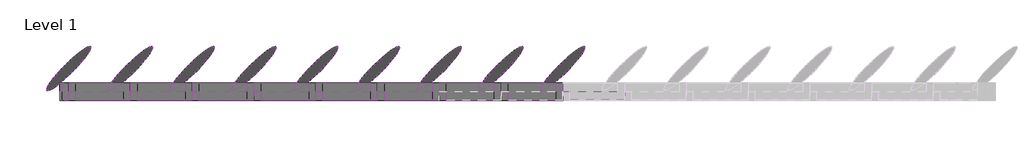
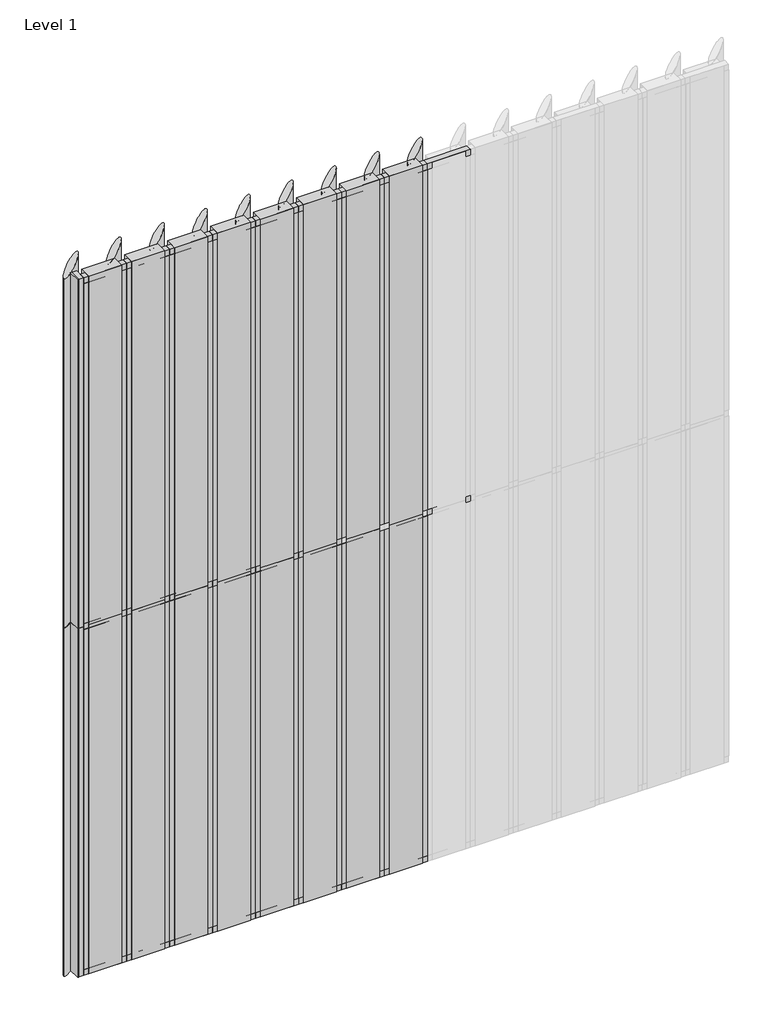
# One storey, part 1 of 2: 42 members, 36 plates.
"""IFC4 building model written with IfcOpenShell, lengths in millimetres."""

from ifc_helpers import new_model, si_unit, origin, place, context, project, spatial, transform, mapped, element, save
from components import rectangular_mullion_80596749, rectangular_mullion_795f5a7c, rectangular_mullion_98250b89, rectangular_mullion_94c598e1, empty_system_panel_empty_b0bff820, empty_system_panel_empty_78d8e544, empty_system_panel_empty_5c88f992, empty_system_panel_empty_86f8aeda

model = new_model("IFC4")

# Units and contexts
model_context = context("Model", 3, world=origin())
ifc_project = project(units=[si_unit("LENGTHUNIT", "METRE", prefix="MILLI")], contexts=[model_context])

# Site, building, storey
site = spatial("IfcSite", under=ifc_project)
building = spatial("IfcBuilding", under=site)
storey = spatial("IfcBuildingStorey", under=building, Name="Level 1", Elevation=0.0)

# Members
placement = place(None, origin())
rectangular_mullion_shape = rectangular_mullion_80596749(model_context)
element("IfcMember", 1, ObjectType="Rectangular Mullion : RSen_21_CWM_blade - 350 ellips - 45°_gen_duco projects", at=placement, inside=storey, context=model_context, shape_type="MappedRepresentation", body=[
    mapped(rectangular_mullion_shape, transform((2850.0, 3000.0, 0.0), x_axis=(-1.0, 0.0, 0.0), y_axis=(0.0, 1.0, 0.0), z_axis=(0.0, 0.0, -1.0))),
])
element("IfcMember", 2, ObjectType="Rectangular Mullion : RSen_21_CWM_blade - 350 ellips - 45°_gen_duco projects", at=placement, inside=storey, context=model_context, shape_type="MappedRepresentation", body=[
    mapped(rectangular_mullion_shape, transform((2500.0, 3000.0, 0.0), x_axis=(-1.0, 0.0, 0.0), y_axis=(0.0, 1.0, 0.0), z_axis=(0.0, 0.0, -1.0))),
])
element("IfcMember", 3, ObjectType="Rectangular Mullion : RSen_21_CWM_blade - 350 ellips - 45°_gen_duco projects", at=placement, inside=storey, context=model_context, shape_type="MappedRepresentation", body=[
    mapped(rectangular_mullion_shape, transform((2150.0, 3000.0, 0.0), x_axis=(-1.0, 0.0, 0.0), y_axis=(0.0, 1.0, 0.0), z_axis=(0.0, 0.0, -1.0))),
])
element("IfcMember", 4, ObjectType="Rectangular Mullion : RSen_21_CWM_blade - 350 ellips - 45°_gen_duco projects", at=placement, inside=storey, context=model_context, shape_type="MappedRepresentation", body=[
    mapped(rectangular_mullion_shape, transform((1800.0, 3000.0, 0.0), x_axis=(-1.0, 0.0, 0.0), y_axis=(0.0, 1.0, 0.0), z_axis=(0.0, 0.0, -1.0))),
])
element("IfcMember", 5, ObjectType="Rectangular Mullion : RSen_21_CWM_blade - 350 ellips - 45°_gen_duco projects", at=placement, inside=storey, context=model_context, shape_type="MappedRepresentation", body=[
    mapped(rectangular_mullion_shape, transform((1450.0, 3000.0, 0.0), x_axis=(-1.0, 0.0, 0.0), y_axis=(0.0, 1.0, 0.0), z_axis=(0.0, 0.0, -1.0))),
])
element("IfcMember", 6, ObjectType="Rectangular Mullion : RSen_21_CWM_blade - 350 ellips - 45°_gen_duco projects", at=placement, inside=storey, context=model_context, shape_type="MappedRepresentation", body=[
    mapped(rectangular_mullion_shape, transform((1100.0, 3000.0, 0.0), x_axis=(-1.0, 0.0, 0.0), y_axis=(0.0, 1.0, 0.0), z_axis=(0.0, 0.0, -1.0))),
])
element("IfcMember", 7, ObjectType="Rectangular Mullion : RSen_21_CWM_blade - 350 ellips - 45°_gen_duco projects", at=placement, inside=storey, context=model_context, shape_type="MappedRepresentation", body=[
    mapped(rectangular_mullion_shape, transform((750.0, 3000.0, 0.0), x_axis=(-1.0, 0.0, 0.0), y_axis=(0.0, 1.0, 0.0), z_axis=(0.0, 0.0, -1.0))),
])
element("IfcMember", 8, ObjectType="Rectangular Mullion : RSen_21_CWM_blade - 350 ellips - 45°_gen_duco projects", at=placement, inside=storey, context=model_context, shape_type="MappedRepresentation", body=[
    mapped(rectangular_mullion_shape, transform((400.0, 3000.0, 0.0), x_axis=(-1.0, 0.0, 0.0), y_axis=(0.0, 1.0, 0.0), z_axis=(0.0, 0.0, -1.0))),
])
element("IfcMember", 9, ObjectType="Rectangular Mullion : RSen_21_CWM_blade - 350 ellips - 45°_gen_duco projects", at=placement, inside=storey, context=model_context, shape_type="MappedRepresentation", body=[
    mapped(rectangular_mullion_shape, transform((50.0, 3000.0, 0.0), x_axis=(-1.0, 0.0, 0.0), y_axis=(0.0, 1.0, 0.0), z_axis=(0.0, 0.0, -1.0))),
])
element("IfcMember", 10, ObjectType="Rectangular Mullion : RSen_21_CWM_blade - 350 ellips - 45°_gen_duco projects", at=placement, inside=storey, context=model_context, shape_type="MappedRepresentation", body=[
    mapped(rectangular_mullion_shape, transform((2850.0, 3000.0, 3000.0), x_axis=(-1.0, 0.0, 0.0), y_axis=(0.0, 1.0, 0.0), z_axis=(0.0, 0.0, -1.0))),
])
element("IfcMember", 11, ObjectType="Rectangular Mullion : RSen_21_CWM_blade - 350 ellips - 45°_gen_duco projects", at=placement, inside=storey, context=model_context, shape_type="MappedRepresentation", body=[
    mapped(rectangular_mullion_shape, transform((2500.0, 3000.0, 3000.0), x_axis=(-1.0, 0.0, 0.0), y_axis=(0.0, 1.0, 0.0), z_axis=(0.0, 0.0, -1.0))),
])
element("IfcMember", 12, ObjectType="Rectangular Mullion : RSen_21_CWM_blade - 350 ellips - 45°_gen_duco projects", at=placement, inside=storey, context=model_context, shape_type="MappedRepresentation", body=[
    mapped(rectangular_mullion_shape, transform((2150.0, 3000.0, 3000.0), x_axis=(-1.0, 0.0, 0.0), y_axis=(0.0, 1.0, 0.0), z_axis=(0.0, 0.0, -1.0))),
])
element("IfcMember", 13, ObjectType="Rectangular Mullion : RSen_21_CWM_blade - 350 ellips - 45°_gen_duco projects", at=placement, inside=storey, context=model_context, shape_type="MappedRepresentation", body=[
    mapped(rectangular_mullion_shape, transform((1800.0, 3000.0, 3000.0), x_axis=(-1.0, 0.0, 0.0), y_axis=(0.0, 1.0, 0.0), z_axis=(0.0, 0.0, -1.0))),
])
element("IfcMember", 14, ObjectType="Rectangular Mullion : RSen_21_CWM_blade - 350 ellips - 45°_gen_duco projects", at=placement, inside=storey, context=model_context, shape_type="MappedRepresentation", body=[
    mapped(rectangular_mullion_shape, transform((1450.0, 3000.0, 3000.0), x_axis=(-1.0, 0.0, 0.0), y_axis=(0.0, 1.0, 0.0), z_axis=(0.0, 0.0, -1.0))),
])
element("IfcMember", 15, ObjectType="Rectangular Mullion : RSen_21_CWM_blade - 350 ellips - 45°_gen_duco projects", at=placement, inside=storey, context=model_context, shape_type="MappedRepresentation", body=[
    mapped(rectangular_mullion_shape, transform((1100.0, 3000.0, 3000.0), x_axis=(-1.0, 0.0, 0.0), y_axis=(0.0, 1.0, 0.0), z_axis=(0.0, 0.0, -1.0))),
])
element("IfcMember", 16, ObjectType="Rectangular Mullion : RSen_21_CWM_blade - 350 ellips - 45°_gen_duco projects", at=placement, inside=storey, context=model_context, shape_type="MappedRepresentation", body=[
    mapped(rectangular_mullion_shape, transform((750.0, 3000.0, 3000.0), x_axis=(-1.0, 0.0, 0.0), y_axis=(0.0, 1.0, 0.0), z_axis=(0.0, 0.0, -1.0))),
])
element("IfcMember", 17, ObjectType="Rectangular Mullion : RSen_21_CWM_blade - 350 ellips - 45°_gen_duco projects", at=placement, inside=storey, context=model_context, shape_type="MappedRepresentation", body=[
    mapped(rectangular_mullion_shape, transform((400.0, 3000.0, 3000.0), x_axis=(-1.0, 0.0, 0.0), y_axis=(0.0, 1.0, 0.0), z_axis=(0.0, 0.0, -1.0))),
])
element("IfcMember", 18, ObjectType="Rectangular Mullion : RSen_21_CWM_blade - 350 ellips - 45°_gen_duco projects", at=placement, inside=storey, context=model_context, shape_type="MappedRepresentation", body=[
    mapped(rectangular_mullion_shape, transform((50.0, 3000.0, 3000.0), x_axis=(-1.0, 0.0, 0.0), y_axis=(0.0, 1.0, 0.0), z_axis=(0.0, 0.0, -1.0))),
])
rectangular_mullion_2_shape = rectangular_mullion_795f5a7c(model_context)
element("IfcMember", 19, ObjectType="Rectangular Mullion : RSen_21_CWM_support profile 50x50 - left_gen_duco projects", at=placement, inside=storey, context=model_context, shape_type="MappedRepresentation", body=[
    mapped(rectangular_mullion_2_shape, transform((2850.0, 3000.0, 6000.0), x_axis=(0.0, 0.0, 1.0), y_axis=(0.0, 1.0, 0.0), z_axis=(-1.0, 0.0, 0.0))),
])
element("IfcMember", 20, ObjectType="Rectangular Mullion : RSen_21_CWM_support profile 50x50 - left_gen_duco projects", at=placement, inside=storey, context=model_context, shape_type="MappedRepresentation", body=[
    mapped(rectangular_mullion_2_shape, transform((2500.0, 3000.0, 6000.0), x_axis=(0.0, 0.0, 1.0), y_axis=(0.0, 1.0, 0.0), z_axis=(-1.0, 0.0, 0.0))),
])
element("IfcMember", 21, ObjectType="Rectangular Mullion : RSen_21_CWM_support profile 50x50 - left_gen_duco projects", at=placement, inside=storey, context=model_context, shape_type="MappedRepresentation", body=[
    mapped(rectangular_mullion_2_shape, transform((2150.0, 3000.0, 6000.0), x_axis=(0.0, 0.0, 1.0), y_axis=(0.0, 1.0, 0.0), z_axis=(-1.0, 0.0, 0.0))),
])
element("IfcMember", 22, ObjectType="Rectangular Mullion : RSen_21_CWM_support profile 50x50 - left_gen_duco projects", at=placement, inside=storey, context=model_context, shape_type="MappedRepresentation", body=[
    mapped(rectangular_mullion_2_shape, transform((1800.0, 3000.0, 6000.0), x_axis=(0.0, 0.0, 1.0), y_axis=(0.0, 1.0, 0.0), z_axis=(-1.0, 0.0, 0.0))),
])
element("IfcMember", 23, ObjectType="Rectangular Mullion : RSen_21_CWM_support profile 50x50 - left_gen_duco projects", at=placement, inside=storey, context=model_context, shape_type="MappedRepresentation", body=[
    mapped(rectangular_mullion_2_shape, transform((1450.0, 3000.0, 6000.0), x_axis=(0.0, 0.0, 1.0), y_axis=(0.0, 1.0, 0.0), z_axis=(-1.0, 0.0, 0.0))),
])
element("IfcMember", 24, ObjectType="Rectangular Mullion : RSen_21_CWM_support profile 50x50 - left_gen_duco projects", at=placement, inside=storey, context=model_context, shape_type="MappedRepresentation", body=[
    mapped(rectangular_mullion_2_shape, transform((1100.0, 3000.0, 6000.0), x_axis=(0.0, 0.0, 1.0), y_axis=(0.0, 1.0, 0.0), z_axis=(-1.0, 0.0, 0.0))),
])
element("IfcMember", 25, ObjectType="Rectangular Mullion : RSen_21_CWM_support profile 50x50 - left_gen_duco projects", at=placement, inside=storey, context=model_context, shape_type="MappedRepresentation", body=[
    mapped(rectangular_mullion_2_shape, transform((750.0, 3000.0, 6000.0), x_axis=(0.0, 0.0, 1.0), y_axis=(0.0, 1.0, 0.0), z_axis=(-1.0, 0.0, 0.0))),
])
element("IfcMember", 26, ObjectType="Rectangular Mullion : RSen_21_CWM_support profile 50x50 - left_gen_duco projects", at=placement, inside=storey, context=model_context, shape_type="MappedRepresentation", body=[
    mapped(rectangular_mullion_2_shape, transform((400.0, 3000.0, 6000.0), x_axis=(0.0, 0.0, 1.0), y_axis=(0.0, 1.0, 0.0), z_axis=(-1.0, 0.0, 0.0))),
])
element("IfcMember", 27, ObjectType="Rectangular Mullion : RSen_21_CWM_support profile 50x50 - left_gen_duco projects", at=placement, inside=storey, context=model_context, shape_type="MappedRepresentation", body=[
    mapped(rectangular_mullion_2_shape, transform((50.0, 3000.0, 6000.0), x_axis=(0.0, 0.0, 1.0), y_axis=(0.0, 1.0, 0.0), z_axis=(-1.0, 0.0, 0.0))),
])
rectangular_mullion_3_shape = rectangular_mullion_98250b89(model_context)
element("IfcMember", 28, ObjectType="Rectangular Mullion : RSen_21_CWM_support profile 50x50 - right_gen_duco projects", at=placement, inside=storey, context=model_context, shape_type="MappedRepresentation", body=[
    mapped(rectangular_mullion_3_shape, transform((2850.0, 3000.0, 0.0), x_axis=(0.0, 0.0, -1.0), y_axis=(0.0, 1.0, 0.0), z_axis=(1.0, 0.0, 0.0))),
])
element("IfcMember", 29, ObjectType="Rectangular Mullion : RSen_21_CWM_support profile 50x50 - right_gen_duco projects", at=placement, inside=storey, context=model_context, shape_type="MappedRepresentation", body=[
    mapped(rectangular_mullion_3_shape, transform((2500.0, 3000.0, 0.0), x_axis=(0.0, 0.0, -1.0), y_axis=(0.0, 1.0, 0.0), z_axis=(1.0, 0.0, 0.0))),
])
element("IfcMember", 30, ObjectType="Rectangular Mullion : RSen_21_CWM_support profile 50x50 - right_gen_duco projects", at=placement, inside=storey, context=model_context, shape_type="MappedRepresentation", body=[
    mapped(rectangular_mullion_3_shape, transform((2150.0, 3000.0, 0.0), x_axis=(0.0, 0.0, -1.0), y_axis=(0.0, 1.0, 0.0), z_axis=(1.0, 0.0, 0.0))),
])
element("IfcMember", 31, ObjectType="Rectangular Mullion : RSen_21_CWM_support profile 50x50 - right_gen_duco projects", at=placement, inside=storey, context=model_context, shape_type="MappedRepresentation", body=[
    mapped(rectangular_mullion_3_shape, transform((1800.0, 3000.0, 0.0), x_axis=(0.0, 0.0, -1.0), y_axis=(0.0, 1.0, 0.0), z_axis=(1.0, 0.0, 0.0))),
])
element("IfcMember", 32, ObjectType="Rectangular Mullion : RSen_21_CWM_support profile 50x50 - right_gen_duco projects", at=placement, inside=storey, context=model_context, shape_type="MappedRepresentation", body=[
    mapped(rectangular_mullion_3_shape, transform((1450.0, 3000.0, 0.0), x_axis=(0.0, 0.0, -1.0), y_axis=(0.0, 1.0, 0.0), z_axis=(1.0, 0.0, 0.0))),
])
element("IfcMember", 33, ObjectType="Rectangular Mullion : RSen_21_CWM_support profile 50x50 - right_gen_duco projects", at=placement, inside=storey, context=model_context, shape_type="MappedRepresentation", body=[
    mapped(rectangular_mullion_3_shape, transform((1100.0, 3000.0, 0.0), x_axis=(0.0, 0.0, -1.0), y_axis=(0.0, 1.0, 0.0), z_axis=(1.0, 0.0, 0.0))),
])
element("IfcMember", 34, ObjectType="Rectangular Mullion : RSen_21_CWM_support profile 50x50 - right_gen_duco projects", at=placement, inside=storey, context=model_context, shape_type="MappedRepresentation", body=[
    mapped(rectangular_mullion_3_shape, transform((750.0, 3000.0, 0.0), x_axis=(0.0, 0.0, -1.0), y_axis=(0.0, 1.0, 0.0), z_axis=(1.0, 0.0, 0.0))),
])
element("IfcMember", 35, ObjectType="Rectangular Mullion : RSen_21_CWM_support profile 50x50 - right_gen_duco projects", at=placement, inside=storey, context=model_context, shape_type="MappedRepresentation", body=[
    mapped(rectangular_mullion_3_shape, transform((400.0, 3000.0, 0.0), x_axis=(0.0, 0.0, -1.0), y_axis=(0.0, 1.0, 0.0), z_axis=(1.0, 0.0, 0.0))),
])
rectangular_mullion_4_shape = rectangular_mullion_94c598e1(model_context)
element("IfcMember", 36, ObjectType="Rectangular Mullion : RSen_21_CWM_support profile 50x50_gen_duco projects", at=placement, inside=storey, context=model_context, shape_type="MappedRepresentation", body=[
    mapped(rectangular_mullion_4_shape, transform((2850.0, 3000.0, 3000.0), x_axis=(0.0, 0.0, 1.0), y_axis=(0.0, 1.0, 0.0), z_axis=(-1.0, 0.0, 0.0))),
])
element("IfcMember", 37, ObjectType="Rectangular Mullion : RSen_21_CWM_support profile 50x50_gen_duco projects", at=placement, inside=storey, context=model_context, shape_type="MappedRepresentation", body=[
    mapped(rectangular_mullion_4_shape, transform((1800.0, 3000.0, 3000.0), x_axis=(0.0, 0.0, 1.0), y_axis=(0.0, 1.0, 0.0), z_axis=(-1.0, 0.0, 0.0))),
])
element("IfcMember", 38, ObjectType="Rectangular Mullion : RSen_21_CWM_support profile 50x50_gen_duco projects", at=placement, inside=storey, context=model_context, shape_type="MappedRepresentation", body=[
    mapped(rectangular_mullion_4_shape, transform((1450.0, 3000.0, 3000.0), x_axis=(0.0, 0.0, 1.0), y_axis=(0.0, 1.0, 0.0), z_axis=(-1.0, 0.0, 0.0))),
])
element("IfcMember", 39, ObjectType="Rectangular Mullion : RSen_21_CWM_support profile 50x50_gen_duco projects", at=placement, inside=storey, context=model_context, shape_type="MappedRepresentation", body=[
    mapped(rectangular_mullion_4_shape, transform((1100.0, 3000.0, 3000.0), x_axis=(0.0, 0.0, 1.0), y_axis=(0.0, 1.0, 0.0), z_axis=(-1.0, 0.0, 0.0))),
])
element("IfcMember", 40, ObjectType="Rectangular Mullion : RSen_21_CWM_support profile 50x50_gen_duco projects", at=placement, inside=storey, context=model_context, shape_type="MappedRepresentation", body=[
    mapped(rectangular_mullion_4_shape, transform((750.0, 3000.0, 3000.0), x_axis=(0.0, 0.0, 1.0), y_axis=(0.0, 1.0, 0.0), z_axis=(-1.0, 0.0, 0.0))),
])
element("IfcMember", 41, ObjectType="Rectangular Mullion : RSen_21_CWM_support profile 50x50_gen_duco projects", at=placement, inside=storey, context=model_context, shape_type="MappedRepresentation", body=[
    mapped(rectangular_mullion_4_shape, transform((400.0, 3000.0, 3000.0), x_axis=(0.0, 0.0, 1.0), y_axis=(0.0, 1.0, 0.0), z_axis=(-1.0, 0.0, 0.0))),
])
element("IfcMember", 42, ObjectType="Rectangular Mullion : RSen_21_CWM_support profile 50x50_gen_duco projects", at=placement, inside=storey, context=model_context, shape_type="MappedRepresentation", body=[
    mapped(rectangular_mullion_4_shape, transform((50.0, 3000.0, 3000.0), x_axis=(0.0, 0.0, 1.0), y_axis=(0.0, 1.0, 0.0), z_axis=(-1.0, 0.0, 0.0))),
])

# Plates
empty_system_panel_empty_shape = empty_system_panel_empty_b0bff820(model_context)
element("IfcPlate", 43, ObjectType="Empty System Panel : Empty", at=placement, inside=storey, context=model_context, shape_type="MappedRepresentation", body=[
    mapped(empty_system_panel_empty_shape, transform((4.8474567, 3000.0, 0.0), x_axis=(-1.0, 0.0, 0.0), y_axis=(0.0, -1.0, 0.0), z_axis=(0.0, 0.0, 1.0))),
])
element("IfcPlate", 44, ObjectType="Empty System Panel : Empty", at=placement, inside=storey, context=model_context, shape_type="MappedRepresentation", body=[
    mapped(empty_system_panel_empty_shape, transform((4.8474567, 3000.0, 3000.0), x_axis=(-1.0, 0.0, 0.0), y_axis=(0.0, -1.0, 0.0), z_axis=(0.0, 0.0, 1.0))),
])
empty_system_panel_empty_2_shape = empty_system_panel_empty_78d8e544(model_context)
element("IfcPlate", 45, ObjectType="Empty System Panel : Empty", at=placement, inside=storey, context=model_context, shape_type="MappedRepresentation", body=[
    mapped(empty_system_panel_empty_2_shape, transform((2675.0, 3000.0, 0.0), x_axis=(-1.0, 0.0, 0.0), y_axis=(0.0, -1.0, 0.0), z_axis=(0.0, 0.0, 1.0))),
])
element("IfcPlate", 46, ObjectType="Empty System Panel : Empty", at=placement, inside=storey, context=model_context, shape_type="MappedRepresentation", body=[
    mapped(empty_system_panel_empty_2_shape, transform((2325.0, 3000.0, 0.0), x_axis=(-1.0, 0.0, 0.0), y_axis=(0.0, -1.0, 0.0), z_axis=(0.0, 0.0, 1.0))),
])
element("IfcPlate", 47, ObjectType="Empty System Panel : Empty", at=placement, inside=storey, context=model_context, shape_type="MappedRepresentation", body=[
    mapped(empty_system_panel_empty_2_shape, transform((1975.0, 3000.0, 0.0), x_axis=(-1.0, 0.0, 0.0), y_axis=(0.0, -1.0, 0.0), z_axis=(0.0, 0.0, 1.0))),
])
element("IfcPlate", 48, ObjectType="Empty System Panel : Empty", at=placement, inside=storey, context=model_context, shape_type="MappedRepresentation", body=[
    mapped(empty_system_panel_empty_2_shape, transform((1625.0, 3000.0, 0.0), x_axis=(-1.0, 0.0, 0.0), y_axis=(0.0, -1.0, 0.0), z_axis=(0.0, 0.0, 1.0))),
])
element("IfcPlate", 49, ObjectType="Empty System Panel : Empty", at=placement, inside=storey, context=model_context, shape_type="MappedRepresentation", body=[
    mapped(empty_system_panel_empty_2_shape, transform((1275.0, 3000.0, 0.0), x_axis=(-1.0, 0.0, 0.0), y_axis=(0.0, -1.0, 0.0), z_axis=(0.0, 0.0, 1.0))),
])
element("IfcPlate", 50, ObjectType="Empty System Panel : Empty", at=placement, inside=storey, context=model_context, shape_type="MappedRepresentation", body=[
    mapped(empty_system_panel_empty_2_shape, transform((925.0, 3000.0, 0.0), x_axis=(-1.0, 0.0, 0.0), y_axis=(0.0, -1.0, 0.0), z_axis=(0.0, 0.0, 1.0))),
])
element("IfcPlate", 51, ObjectType="Empty System Panel : Empty", at=placement, inside=storey, context=model_context, shape_type="MappedRepresentation", body=[
    mapped(empty_system_panel_empty_2_shape, transform((575.0, 3000.0, 0.0), x_axis=(-1.0, 0.0, 0.0), y_axis=(0.0, -1.0, 0.0), z_axis=(0.0, 0.0, 1.0))),
])
element("IfcPlate", 52, ObjectType="Empty System Panel : Empty", at=placement, inside=storey, context=model_context, shape_type="MappedRepresentation", body=[
    mapped(empty_system_panel_empty_2_shape, transform((225.0, 3000.0, 0.0), x_axis=(-1.0, 0.0, 0.0), y_axis=(0.0, -1.0, 0.0), z_axis=(0.0, 0.0, 1.0))),
])
element("IfcPlate", 53, ObjectType="Empty System Panel : Empty", at=placement, inside=storey, context=model_context, shape_type="MappedRepresentation", body=[
    mapped(empty_system_panel_empty_2_shape, transform((2675.0, 3000.0, 3000.0), x_axis=(-1.0, 0.0, 0.0), y_axis=(0.0, -1.0, 0.0), z_axis=(0.0, 0.0, 1.0))),
])
element("IfcPlate", 54, ObjectType="Empty System Panel : Empty", at=placement, inside=storey, context=model_context, shape_type="MappedRepresentation", body=[
    mapped(empty_system_panel_empty_2_shape, transform((2325.0, 3000.0, 3000.0), x_axis=(-1.0, 0.0, 0.0), y_axis=(0.0, -1.0, 0.0), z_axis=(0.0, 0.0, 1.0))),
])
element("IfcPlate", 55, ObjectType="Empty System Panel : Empty", at=placement, inside=storey, context=model_context, shape_type="MappedRepresentation", body=[
    mapped(empty_system_panel_empty_2_shape, transform((1975.0, 3000.0, 3000.0), x_axis=(-1.0, 0.0, 0.0), y_axis=(0.0, -1.0, 0.0), z_axis=(0.0, 0.0, 1.0))),
])
element("IfcPlate", 56, ObjectType="Empty System Panel : Empty", at=placement, inside=storey, context=model_context, shape_type="MappedRepresentation", body=[
    mapped(empty_system_panel_empty_2_shape, transform((1625.0, 3000.0, 3000.0), x_axis=(-1.0, 0.0, 0.0), y_axis=(0.0, -1.0, 0.0), z_axis=(0.0, 0.0, 1.0))),
])
element("IfcPlate", 57, ObjectType="Empty System Panel : Empty", at=placement, inside=storey, context=model_context, shape_type="MappedRepresentation", body=[
    mapped(empty_system_panel_empty_2_shape, transform((1275.0, 3000.0, 3000.0), x_axis=(-1.0, 0.0, 0.0), y_axis=(0.0, -1.0, 0.0), z_axis=(0.0, 0.0, 1.0))),
])
element("IfcPlate", 58, ObjectType="Empty System Panel : Empty", at=placement, inside=storey, context=model_context, shape_type="MappedRepresentation", body=[
    mapped(empty_system_panel_empty_2_shape, transform((925.0, 3000.0, 3000.0), x_axis=(-1.0, 0.0, 0.0), y_axis=(0.0, -1.0, 0.0), z_axis=(0.0, 0.0, 1.0))),
])
element("IfcPlate", 59, ObjectType="Empty System Panel : Empty", at=placement, inside=storey, context=model_context, shape_type="MappedRepresentation", body=[
    mapped(empty_system_panel_empty_2_shape, transform((575.0, 3000.0, 3000.0), x_axis=(-1.0, 0.0, 0.0), y_axis=(0.0, -1.0, 0.0), z_axis=(0.0, 0.0, 1.0))),
])
element("IfcPlate", 60, ObjectType="Empty System Panel : Empty", at=placement, inside=storey, context=model_context, shape_type="MappedRepresentation", body=[
    mapped(empty_system_panel_empty_2_shape, transform((225.0, 3000.0, 3000.0), x_axis=(-1.0, 0.0, 0.0), y_axis=(0.0, -1.0, 0.0), z_axis=(0.0, 0.0, 1.0))),
])
empty_system_panel_empty_3_shape = empty_system_panel_empty_5c88f992(model_context)
element("IfcPlate", 61, ObjectType="Empty System Panel : Empty", at=placement, inside=storey, context=model_context, shape_type="MappedRepresentation", body=[
    mapped(empty_system_panel_empty_3_shape, transform((2675.0, 3000.0, 50.0), x_axis=(-1.0, 0.0, 0.0), y_axis=(0.0, -1.0, 0.0), z_axis=(0.0, 0.0, 1.0))),
])
element("IfcPlate", 62, ObjectType="Empty System Panel : Empty", at=placement, inside=storey, context=model_context, shape_type="MappedRepresentation", body=[
    mapped(empty_system_panel_empty_3_shape, transform((2325.0, 3000.0, 50.0), x_axis=(-1.0, 0.0, 0.0), y_axis=(0.0, -1.0, 0.0), z_axis=(0.0, 0.0, 1.0))),
])
element("IfcPlate", 63, ObjectType="Empty System Panel : Empty", at=placement, inside=storey, context=model_context, shape_type="MappedRepresentation", body=[
    mapped(empty_system_panel_empty_3_shape, transform((1975.0, 3000.0, 50.0), x_axis=(-1.0, 0.0, 0.0), y_axis=(0.0, -1.0, 0.0), z_axis=(0.0, 0.0, 1.0))),
])
element("IfcPlate", 64, ObjectType="Empty System Panel : Empty", at=placement, inside=storey, context=model_context, shape_type="MappedRepresentation", body=[
    mapped(empty_system_panel_empty_3_shape, transform((1625.0, 3000.0, 50.0), x_axis=(-1.0, 0.0, 0.0), y_axis=(0.0, -1.0, 0.0), z_axis=(0.0, 0.0, 1.0))),
])
element("IfcPlate", 65, ObjectType="Empty System Panel : Empty", at=placement, inside=storey, context=model_context, shape_type="MappedRepresentation", body=[
    mapped(empty_system_panel_empty_3_shape, transform((1275.0, 3000.0, 50.0), x_axis=(-1.0, 0.0, 0.0), y_axis=(0.0, -1.0, 0.0), z_axis=(0.0, 0.0, 1.0))),
])
element("IfcPlate", 66, ObjectType="Empty System Panel : Empty", at=placement, inside=storey, context=model_context, shape_type="MappedRepresentation", body=[
    mapped(empty_system_panel_empty_3_shape, transform((925.0, 3000.0, 50.0), x_axis=(-1.0, 0.0, 0.0), y_axis=(0.0, -1.0, 0.0), z_axis=(0.0, 0.0, 1.0))),
])
element("IfcPlate", 67, ObjectType="Empty System Panel : Empty", at=placement, inside=storey, context=model_context, shape_type="MappedRepresentation", body=[
    mapped(empty_system_panel_empty_3_shape, transform((575.0, 3000.0, 50.0), x_axis=(-1.0, 0.0, 0.0), y_axis=(0.0, -1.0, 0.0), z_axis=(0.0, 0.0, 1.0))),
])
element("IfcPlate", 68, ObjectType="Empty System Panel : Empty", at=placement, inside=storey, context=model_context, shape_type="MappedRepresentation", body=[
    mapped(empty_system_panel_empty_3_shape, transform((225.0, 3000.0, 50.0), x_axis=(-1.0, 0.0, 0.0), y_axis=(0.0, -1.0, 0.0), z_axis=(0.0, 0.0, 1.0))),
])
element("IfcPlate", 69, ObjectType="Empty System Panel : Empty", at=placement, inside=storey, context=model_context, shape_type="MappedRepresentation", body=[
    mapped(empty_system_panel_empty_3_shape, transform((2675.0, 3000.0, 3025.0), x_axis=(-1.0, 0.0, 0.0), y_axis=(0.0, -1.0, 0.0), z_axis=(0.0, 0.0, 1.0))),
])
element("IfcPlate", 70, ObjectType="Empty System Panel : Empty", at=placement, inside=storey, context=model_context, shape_type="MappedRepresentation", body=[
    mapped(empty_system_panel_empty_3_shape, transform((2325.0, 3000.0, 3025.0), x_axis=(-1.0, 0.0, 0.0), y_axis=(0.0, -1.0, 0.0), z_axis=(0.0, 0.0, 1.0))),
])
element("IfcPlate", 71, ObjectType="Empty System Panel : Empty", at=placement, inside=storey, context=model_context, shape_type="MappedRepresentation", body=[
    mapped(empty_system_panel_empty_3_shape, transform((1975.0, 3000.0, 3025.0), x_axis=(-1.0, 0.0, 0.0), y_axis=(0.0, -1.0, 0.0), z_axis=(0.0, 0.0, 1.0))),
])
element("IfcPlate", 72, ObjectType="Empty System Panel : Empty", at=placement, inside=storey, context=model_context, shape_type="MappedRepresentation", body=[
    mapped(empty_system_panel_empty_3_shape, transform((1625.0, 3000.0, 3025.0), x_axis=(-1.0, 0.0, 0.0), y_axis=(0.0, -1.0, 0.0), z_axis=(0.0, 0.0, 1.0))),
])
element("IfcPlate", 73, ObjectType="Empty System Panel : Empty", at=placement, inside=storey, context=model_context, shape_type="MappedRepresentation", body=[
    mapped(empty_system_panel_empty_3_shape, transform((1275.0, 3000.0, 3025.0), x_axis=(-1.0, 0.0, 0.0), y_axis=(0.0, -1.0, 0.0), z_axis=(0.0, 0.0, 1.0))),
])
element("IfcPlate", 74, ObjectType="Empty System Panel : Empty", at=placement, inside=storey, context=model_context, shape_type="MappedRepresentation", body=[
    mapped(empty_system_panel_empty_3_shape, transform((925.0, 3000.0, 3025.0), x_axis=(-1.0, 0.0, 0.0), y_axis=(0.0, -1.0, 0.0), z_axis=(0.0, 0.0, 1.0))),
])
element("IfcPlate", 75, ObjectType="Empty System Panel : Empty", at=placement, inside=storey, context=model_context, shape_type="MappedRepresentation", body=[
    mapped(empty_system_panel_empty_3_shape, transform((575.0, 3000.0, 3025.0), x_axis=(-1.0, 0.0, 0.0), y_axis=(0.0, -1.0, 0.0), z_axis=(0.0, 0.0, 1.0))),
])
element("IfcPlate", 76, ObjectType="Empty System Panel : Empty", at=placement, inside=storey, context=model_context, shape_type="MappedRepresentation", body=[
    mapped(empty_system_panel_empty_3_shape, transform((225.0, 3000.0, 3025.0), x_axis=(-1.0, 0.0, 0.0), y_axis=(0.0, -1.0, 0.0), z_axis=(0.0, 0.0, 1.0))),
])
empty_system_panel_empty_4_shape = empty_system_panel_empty_86f8aeda(model_context)
element("IfcPlate", 77, ObjectType="Empty System Panel : Empty", at=placement, inside=storey, context=model_context, shape_type="MappedRepresentation", body=[
    mapped(empty_system_panel_empty_4_shape, transform((25.0, 3000.0, 0.0), x_axis=(-1.0, 0.0, 0.0), y_axis=(0.0, -1.0, 0.0), z_axis=(0.0, 0.0, 1.0))),
])
element("IfcPlate", 78, ObjectType="Empty System Panel : Empty", at=placement, inside=storey, context=model_context, shape_type="MappedRepresentation", body=[
    mapped(empty_system_panel_empty_4_shape, transform((25.0, 3000.0, 3000.0), x_axis=(-1.0, 0.0, 0.0), y_axis=(0.0, -1.0, 0.0), z_axis=(0.0, 0.0, 1.0))),
])

save(model, "model.ifc")
